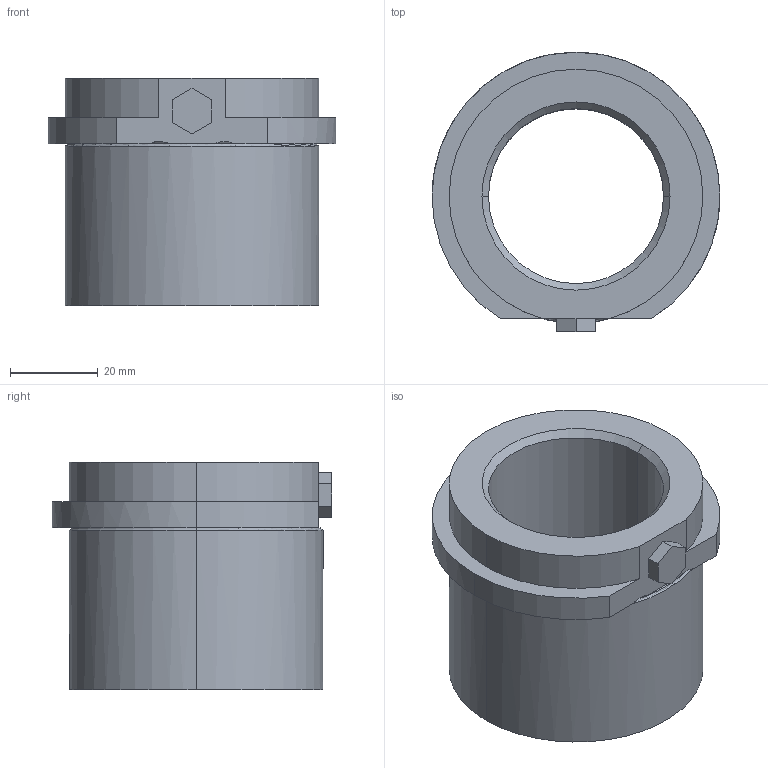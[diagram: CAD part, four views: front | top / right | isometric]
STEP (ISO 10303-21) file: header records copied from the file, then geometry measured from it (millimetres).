
FILE_DESCRIPTION(('CATIA V5 STEP Exchange'),'2;1');
FILE_NAME('C:\Users\Utente\Desktop\IO LAVORO\3D X SITO CF\X SITO\740\740-40.stp','2021-01-18T19:33:44+00:00',('none'),('none'),'CATIA Version 5 Release 20 GA (IN-10)','CATIA V5 STEP AP203','none');
FILE_SCHEMA(('CONFIG_CONTROL_DESIGN'));
Length unit declared in the file: millimetre
Products named in the file (1): 740-40
Assembly tree (1 placements, depth 2):
  740-40
    #58
Bounding box: 65.8 x 63.9 x 52 mm (x, y, z)
Volume: 75352.6 mm3; surface area: 20464.3 mm2
Topology: 1 solids, 1 shells, 35 faces, 88 edges, 57 vertices
Faces by surface type: plane 14, cylinder 12, torus 5, cone 4
Entity records: 1322 total; most frequent: CARTESIAN_POINT 460, ORIENTED_EDGE 176, DIRECTION 139, EDGE_CURVE 88, AXIS2_PLACEMENT_3D 63, VERTEX_POINT 57, VECTOR 42, LINE 42
